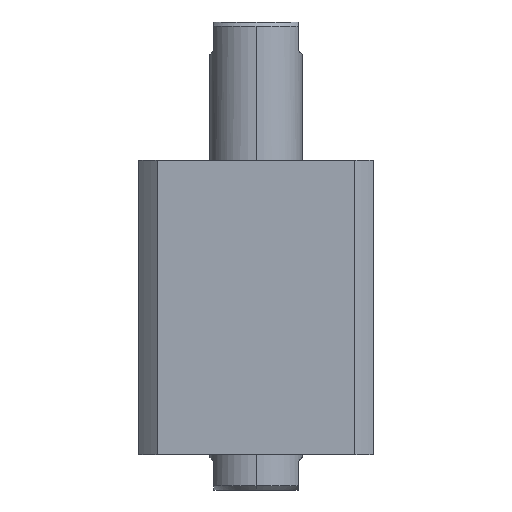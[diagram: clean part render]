
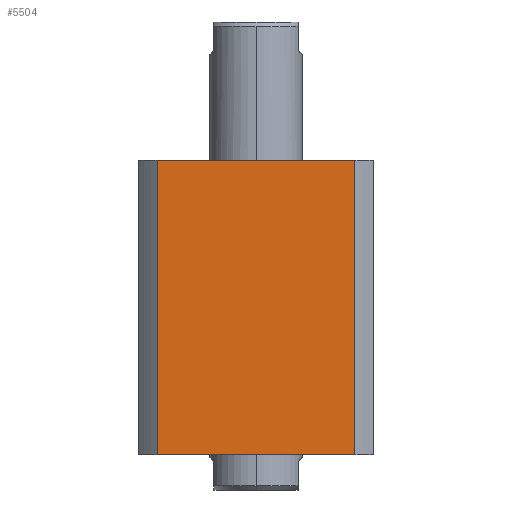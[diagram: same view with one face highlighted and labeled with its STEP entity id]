
A CAD part, front view. The second image highlights one B-rep face of the part: STEP entity #5504.
In plain terms, the highlighted planar face has unit normal (0, -1, 0) as drawn and (1, 0, 0) by its records, which use the part's own axes.
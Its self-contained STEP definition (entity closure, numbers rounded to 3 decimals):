
#12 = ORIENTED_EDGE ( 'NONE', *, *, #12750, .F. ) ;
#106 = CARTESIAN_POINT ( 'NONE',  ( 57., -47.971, 143. ) ) ;
#1080 = VECTOR ( 'NONE', #2669, 1000. ) ;
#1144 = DIRECTION ( 'NONE',  ( 0., -1., 0. ) ) ;
#1320 = VERTEX_POINT ( 'NONE', #5529 ) ;
#1398 = ORIENTED_EDGE ( 'NONE', *, *, #11431, .T. ) ;
#1975 = CARTESIAN_POINT ( 'NONE',  ( 57., 47.971, -157. ) ) ;
#2531 = LINE ( 'NONE', #5017, #5369 ) ;
#2669 = DIRECTION ( 'NONE',  ( 0., 1., 0. ) ) ;
#2671 = EDGE_CURVE ( 'NONE', #1320, #6323, #10414, .T. ) ;
#2779 = EDGE_CURVE ( 'NONE', #15481, #1320, #3547, .T. ) ;
#3141 = DIRECTION ( 'NONE',  ( 0., 0., -1. ) ) ;
#3547 = LINE ( 'NONE', #8724, #1080 ) ;
#4260 = EDGE_LOOP ( 'NONE', ( #12, #1398, #6016, #5190 ) ) ;
#4431 = VERTEX_POINT ( 'NONE', #13329 ) ;
#5017 = CARTESIAN_POINT ( 'NONE',  ( 57., -47.971, -157. ) ) ;
#5190 = ORIENTED_EDGE ( 'NONE', *, *, #2779, .F. ) ;
#5369 = VECTOR ( 'NONE', #9927, 1000. ) ;
#5504 = ADVANCED_FACE ( 'NONE', ( #15321 ), #10815, .F. ) ;
#5529 = CARTESIAN_POINT ( 'NONE',  ( 57., 47.971, 143. ) ) ;
#6016 = ORIENTED_EDGE ( 'NONE', *, *, #2671, .F. ) ;
#6323 = VERTEX_POINT ( 'NONE', #13094 ) ;
#7004 = AXIS2_PLACEMENT_3D ( 'NONE', #15703, #8411, #1144 ) ;
#8241 = LINE ( 'NONE', #11799, #14704 ) ;
#8411 = DIRECTION ( 'NONE',  ( -1., 0., 0. ) ) ;
#8724 = CARTESIAN_POINT ( 'NONE',  ( 57., 57., 143. ) ) ;
#9927 = DIRECTION ( 'NONE',  ( 0., 0., 1. ) ) ;
#10414 = LINE ( 'NONE', #1975, #10778 ) ;
#10573 = DIRECTION ( 'NONE',  ( 0., 1., 0. ) ) ;
#10778 = VECTOR ( 'NONE', #3141, 1000. ) ;
#10815 = PLANE ( 'NONE',  #7004 ) ;
#11431 = EDGE_CURVE ( 'NONE', #4431, #6323, #8241, .T. ) ;
#11799 = CARTESIAN_POINT ( 'NONE',  ( 57., 57., 0. ) ) ;
#12750 = EDGE_CURVE ( 'NONE', #4431, #15481, #2531, .T. ) ;
#13094 = CARTESIAN_POINT ( 'NONE',  ( 57., 47.971, 0. ) ) ;
#13329 = CARTESIAN_POINT ( 'NONE',  ( 57., -47.971, 0. ) ) ;
#14704 = VECTOR ( 'NONE', #10573, 1000. ) ;
#15321 = FACE_OUTER_BOUND ( 'NONE', #4260, .T. ) ;
#15481 = VERTEX_POINT ( 'NONE', #106 ) ;
#15703 = CARTESIAN_POINT ( 'NONE',  ( 57., 57., 143. ) ) ;
